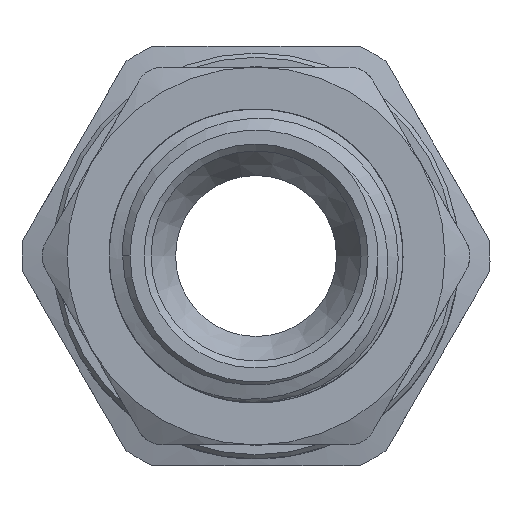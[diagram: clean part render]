
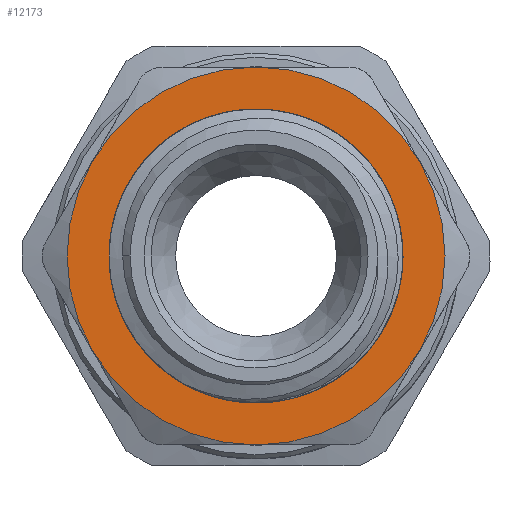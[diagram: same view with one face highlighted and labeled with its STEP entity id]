
A CAD part, left-side view. The second image highlights one B-rep face of the part: STEP entity #12173.
In plain terms, the highlighted planar face has unit normal (-1, 0, 0).
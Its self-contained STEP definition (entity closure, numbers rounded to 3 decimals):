
#236=PLANE('',#12722);
#1241=FACE_OUTER_BOUND('',#2324,.T.);
#1283=CIRCLE('',#12239,10.5);
#1284=CIRCLE('',#12240,10.5);
#1393=CIRCLE('',#12568,13.5);
#1394=CIRCLE('',#12570,13.5);
#1395=CIRCLE('',#12572,13.5);
#1396=CIRCLE('',#12574,13.5);
#1397=CIRCLE('',#12576,13.5);
#1497=CIRCLE('',#12723,13.5);
#1644=FACE_BOUND('',#2325,.T.);
#2324=EDGE_LOOP('',(#11168,#11169,#11170,#11171,#11172,#11173));
#2325=EDGE_LOOP('',(#11174,#11175));
#4635=VERTEX_POINT('',#14926);
#4636=VERTEX_POINT('',#14928);
#5662=VERTEX_POINT('',#28379);
#5670=VERTEX_POINT('',#28427);
#5684=VERTEX_POINT('',#28508);
#5687=VERTEX_POINT('',#28527);
#5695=VERTEX_POINT('',#28575);
#5702=VERTEX_POINT('',#28622);
#5889=EDGE_CURVE('',#4635,#4636,#1283,.T.);
#5890=EDGE_CURVE('',#4636,#4635,#1284,.T.);
#7484=EDGE_CURVE('',#5687,#5684,#1393,.T.);
#7485=EDGE_CURVE('',#5684,#5670,#1394,.T.);
#7486=EDGE_CURVE('',#5695,#5687,#1395,.T.);
#7487=EDGE_CURVE('',#5670,#5662,#1396,.T.);
#7488=EDGE_CURVE('',#5702,#5695,#1397,.T.);
#7629=EDGE_CURVE('',#5662,#5702,#1497,.T.);
#11168=ORIENTED_EDGE('',*,*,#7488,.T.);
#11169=ORIENTED_EDGE('',*,*,#7486,.T.);
#11170=ORIENTED_EDGE('',*,*,#7484,.T.);
#11171=ORIENTED_EDGE('',*,*,#7485,.T.);
#11172=ORIENTED_EDGE('',*,*,#7487,.T.);
#11173=ORIENTED_EDGE('',*,*,#7629,.T.);
#11174=ORIENTED_EDGE('',*,*,#5890,.F.);
#11175=ORIENTED_EDGE('',*,*,#5889,.F.);
#12173=ADVANCED_FACE('',(#1241,#1644),#236,.T.);
#12239=AXIS2_PLACEMENT_3D('',#14929,#12867,#12868);
#12240=AXIS2_PLACEMENT_3D('',#14930,#12869,#12870);
#12568=AXIS2_PLACEMENT_3D('',#28640,#14218,#14219);
#12570=AXIS2_PLACEMENT_3D('',#28642,#14222,#14223);
#12572=AXIS2_PLACEMENT_3D('',#28644,#14226,#14227);
#12574=AXIS2_PLACEMENT_3D('',#28646,#14230,#14231);
#12576=AXIS2_PLACEMENT_3D('',#28648,#14234,#14235);
#12722=AXIS2_PLACEMENT_3D('',#28962,#14555,#14556);
#12723=AXIS2_PLACEMENT_3D('',#28963,#14557,#14558);
#12867=DIRECTION('center_axis',(-1.,0.,0.));
#12868=DIRECTION('ref_axis',(0.,0.,1.));
#12869=DIRECTION('center_axis',(-1.,0.,0.));
#12870=DIRECTION('ref_axis',(0.,0.,1.));
#14218=DIRECTION('center_axis',(-1.,0.,0.));
#14219=DIRECTION('ref_axis',(0.,0.,1.));
#14222=DIRECTION('center_axis',(-1.,0.,0.));
#14223=DIRECTION('ref_axis',(0.,0.,1.));
#14226=DIRECTION('center_axis',(-1.,0.,0.));
#14227=DIRECTION('ref_axis',(0.,0.,1.));
#14230=DIRECTION('center_axis',(-1.,0.,0.));
#14231=DIRECTION('ref_axis',(0.,0.,1.));
#14234=DIRECTION('center_axis',(-1.,0.,0.));
#14235=DIRECTION('ref_axis',(0.,0.,1.));
#14555=DIRECTION('center_axis',(-1.,0.,0.));
#14556=DIRECTION('ref_axis',(0.,0.,1.));
#14557=DIRECTION('center_axis',(-1.,0.,0.));
#14558=DIRECTION('ref_axis',(0.,0.,1.));
#14926=CARTESIAN_POINT('',(-6.316,10.5,0.));
#14928=CARTESIAN_POINT('',(-6.316,-10.5,0.));
#14929=CARTESIAN_POINT('Origin',(-6.316,0.,0.));
#14930=CARTESIAN_POINT('Origin',(-6.316,0.,0.));
#28379=CARTESIAN_POINT('',(-6.316,0.,-13.5));
#28427=CARTESIAN_POINT('',(-6.316,11.691,-6.75));
#28508=CARTESIAN_POINT('',(-6.316,11.691,6.75));
#28527=CARTESIAN_POINT('',(-6.316,0.,13.5));
#28575=CARTESIAN_POINT('',(-6.316,-11.691,6.75));
#28622=CARTESIAN_POINT('',(-6.316,-11.691,-6.75));
#28640=CARTESIAN_POINT('Origin',(-6.316,0.,0.));
#28642=CARTESIAN_POINT('Origin',(-6.316,0.,0.));
#28644=CARTESIAN_POINT('Origin',(-6.316,0.,0.));
#28646=CARTESIAN_POINT('Origin',(-6.316,0.,0.));
#28648=CARTESIAN_POINT('Origin',(-6.316,0.,0.));
#28962=CARTESIAN_POINT('Origin',(-6.316,-10.5,0.));
#28963=CARTESIAN_POINT('Origin',(-6.316,0.,0.));
